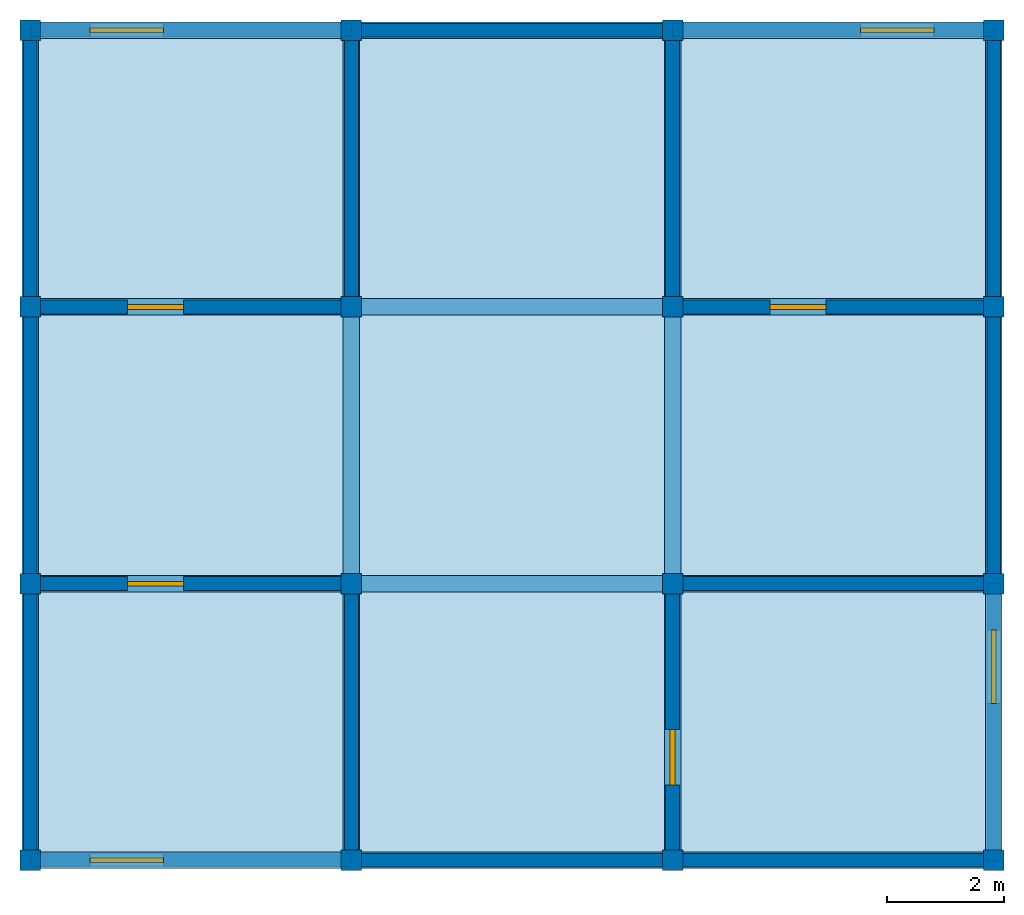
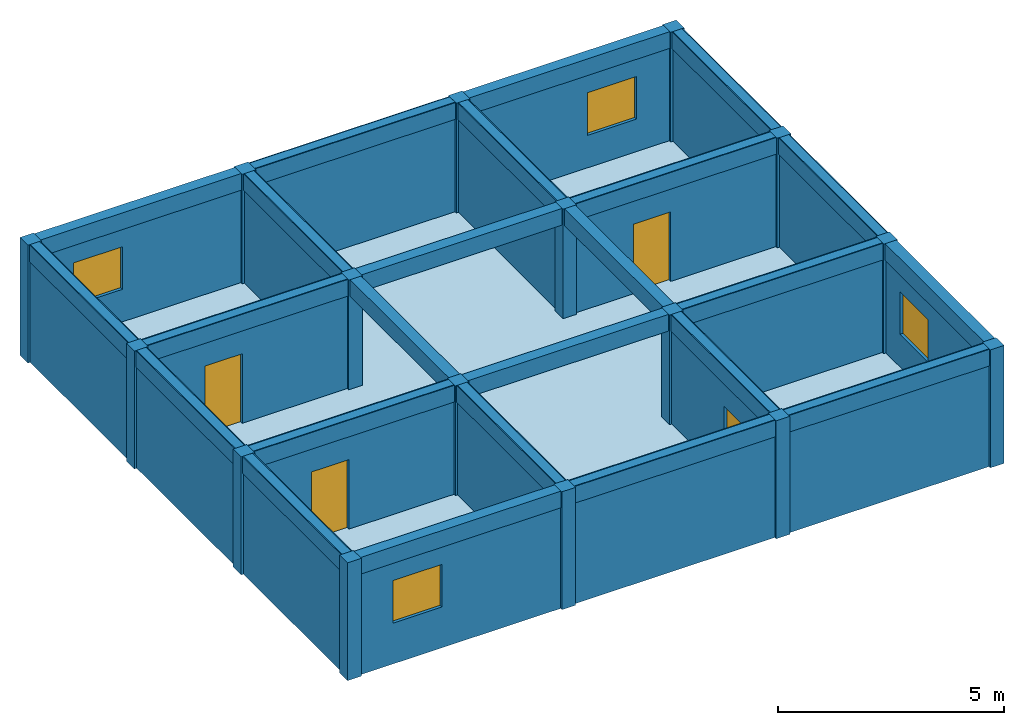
# One storey: 24 beams, 20 walls, 16 columns, 4 doors, 4 windows, 1 slab, 8 openings.
"""IFC4X3 building model written with IfcOpenShell, lengths in metres."""

from ifc_helpers import new_model, si_unit, frame, origin_with_axes, origin_2d, place, context, project, spatial, rectangle, extrude, material, element, fill, save


model = new_model("IFC4X3")

# Units and contexts
model_context = context("Model", 3, precision=1e-05, world=origin_with_axes())
ifc_project = project(units=[si_unit("LENGTHUNIT", "METRE"), si_unit("AREAUNIT", "SQUARE_METRE"), si_unit("VOLUMEUNIT", "CUBIC_METRE")], contexts=[model_context])

# Site, building, storey
site = spatial("IfcSite", under=ifc_project, Name="Antofagasta Parcel", CompositionType="ELEMENT")
building = spatial("IfcBuilding", under=site, Name="Nexo Block", CompositionType="ELEMENT")
storey = spatial("IfcBuildingStorey", under=building, Name="Level 9", CompositionType="ELEMENT", Elevation=25.45)

# Columns
ifc_material_1 = material(Name="Concrete")
column_1_placement = place(None, frame((-8.2, -7.065, 25.446), z_axis=(0.0, 0.0, 1.0), x_axis=(1.0, 0.0, 0.0)))
element("IfcColumn", 1, at=column_1_placement, inside=storey, material=ifc_material_1, Name="Column 9.1", ObjectType="Core Column", PredefinedType="COLUMN", context=model_context, shape_type="SweptSolid", body=[
    extrude(rectangle(XDim=0.35, YDim=0.35, at=origin_2d()), origin_with_axes(), (0.0, 0.0, 1.0), 3.181),
])
column_2_placement = place(None, frame((-8.2, -2.355, 25.446), z_axis=(0.0, 0.0, 1.0), x_axis=(1.0, 0.0, 0.0)))
element("IfcColumn", 2, at=column_2_placement, inside=storey, material=ifc_material_1, Name="Column 9.2", ObjectType="Structural Column", PredefinedType="USERDEFINED", context=model_context, shape_type="SweptSolid", body=[
    extrude(rectangle(XDim=0.35, YDim=0.35, at=origin_2d()), origin_with_axes(), (0.0, 0.0, 1.0), 3.181),
])
column_3_placement = place(None, frame((-8.2, 2.355, 25.446), z_axis=(0.0, 0.0, 1.0), x_axis=(1.0, 0.0, 0.0)))
element("IfcColumn", 3, at=column_3_placement, inside=storey, material=ifc_material_1, Name="Column 9.3", ObjectType="Core Column", PredefinedType="COLUMN", context=model_context, shape_type="SweptSolid", body=[
    extrude(rectangle(XDim=0.35, YDim=0.35, at=origin_2d()), origin_with_axes(), (0.0, 0.0, 1.0), 3.181),
])
column_4_placement = place(None, frame((-8.2, 7.065, 25.446), z_axis=(0.0, 0.0, 1.0), x_axis=(1.0, 0.0, 0.0)))
element("IfcColumn", 4, at=column_4_placement, inside=storey, material=ifc_material_1, Name="Column 9.4", ObjectType="Structural Column", PredefinedType="USERDEFINED", context=model_context, shape_type="SweptSolid", body=[
    extrude(rectangle(XDim=0.35, YDim=0.35, at=origin_2d()), origin_with_axes(), (0.0, 0.0, 1.0), 3.181),
])
column_5_placement = place(None, frame((-2.733, -7.065, 25.446), z_axis=(0.0, 0.0, 1.0), x_axis=(1.0, 0.0, 0.0)))
element("IfcColumn", 5, at=column_5_placement, inside=storey, material=ifc_material_1, Name="Column 9.5", ObjectType="Structural Column", PredefinedType="COLUMN", context=model_context, shape_type="SweptSolid", body=[
    extrude(rectangle(XDim=0.35, YDim=0.35, at=origin_2d()), origin_with_axes(), (0.0, 0.0, 1.0), 3.181),
])
column_6_placement = place(None, frame((-2.733, -2.355, 25.446), z_axis=(0.0, 0.0, 1.0), x_axis=(1.0, 0.0, 0.0)))
element("IfcColumn", 6, at=column_6_placement, inside=storey, material=ifc_material_1, Name="Column 9.6", ObjectType="Facade Column", PredefinedType="COLUMN", context=model_context, shape_type="SweptSolid", body=[
    extrude(rectangle(XDim=0.35, YDim=0.35, at=origin_2d()), origin_with_axes(), (0.0, 0.0, 1.0), 3.181),
])
column_7_placement = place(None, frame((-2.733, 2.355, 25.446), z_axis=(0.0, 0.0, 1.0), x_axis=(1.0, 0.0, 0.0)))
element("IfcColumn", 7, at=column_7_placement, inside=storey, material=ifc_material_1, Name="Column 9.7", ObjectType="Facade Column", PredefinedType="PILASTER", context=model_context, shape_type="SweptSolid", body=[
    extrude(rectangle(XDim=0.35, YDim=0.35, at=origin_2d()), origin_with_axes(), (0.0, 0.0, 1.0), 3.181),
])
column_8_placement = place(None, frame((-2.733, 7.065, 25.446), z_axis=(0.0, 0.0, 1.0), x_axis=(1.0, 0.0, 0.0)))
element("IfcColumn", 8, at=column_8_placement, inside=storey, material=ifc_material_1, Name="Column 9.8", ObjectType="Core Column", PredefinedType="PILASTER", context=model_context, shape_type="SweptSolid", body=[
    extrude(rectangle(XDim=0.35, YDim=0.35, at=origin_2d()), origin_with_axes(), (0.0, 0.0, 1.0), 3.181),
])
column_9_placement = place(None, frame((2.734, -7.065, 25.446), z_axis=(0.0, 0.0, 1.0), x_axis=(1.0, 0.0, 0.0)))
element("IfcColumn", 9, at=column_9_placement, inside=storey, material=ifc_material_1, Name="Column 9.9", ObjectType="Facade Column", PredefinedType="NOTDEFINED", context=model_context, shape_type="SweptSolid", body=[
    extrude(rectangle(XDim=0.35, YDim=0.35, at=origin_2d()), origin_with_axes(), (0.0, 0.0, 1.0), 3.181),
])
column_10_placement = place(None, frame((2.734, -2.355, 25.446), z_axis=(0.0, 0.0, 1.0), x_axis=(1.0, 0.0, 0.0)))
element("IfcColumn", 10, at=column_10_placement, inside=storey, material=ifc_material_1, Name="Column 9.10", ObjectType="Core Column", PredefinedType="NOTDEFINED", context=model_context, shape_type="SweptSolid", body=[
    extrude(rectangle(XDim=0.35, YDim=0.35, at=origin_2d()), origin_with_axes(), (0.0, 0.0, 1.0), 3.181),
])
column_11_placement = place(None, frame((2.734, 2.355, 25.446), z_axis=(0.0, 0.0, 1.0), x_axis=(1.0, 0.0, 0.0)))
element("IfcColumn", 11, at=column_11_placement, inside=storey, material=ifc_material_1, Name="Column 9.11", ObjectType="Corner Column", PredefinedType="COLUMN", context=model_context, shape_type="SweptSolid", body=[
    extrude(rectangle(XDim=0.35, YDim=0.35, at=origin_2d()), origin_with_axes(), (0.0, 0.0, 1.0), 3.181),
])
column_12_placement = place(None, frame((2.734, 7.065, 25.446), z_axis=(0.0, 0.0, 1.0), x_axis=(1.0, 0.0, 0.0)))
element("IfcColumn", 12, at=column_12_placement, inside=storey, material=ifc_material_1, Name="Column 9.12", ObjectType="Structural Column", PredefinedType="USERDEFINED", context=model_context, shape_type="SweptSolid", body=[
    extrude(rectangle(XDim=0.35, YDim=0.35, at=origin_2d()), origin_with_axes(), (0.0, 0.0, 1.0), 3.181),
])
column_13_placement = place(None, frame((8.201, -7.065, 25.446), z_axis=(0.0, 0.0, 1.0), x_axis=(1.0, 0.0, 0.0)))
element("IfcColumn", 13, at=column_13_placement, inside=storey, material=ifc_material_1, Name="Column 9.13", ObjectType="Core Column", PredefinedType="NOTDEFINED", context=model_context, shape_type="SweptSolid", body=[
    extrude(rectangle(XDim=0.35, YDim=0.35, at=origin_2d()), origin_with_axes(), (0.0, 0.0, 1.0), 3.181),
])
column_14_placement = place(None, frame((8.201, -2.355, 25.446), z_axis=(0.0, 0.0, 1.0), x_axis=(1.0, 0.0, 0.0)))
element("IfcColumn", 14, at=column_14_placement, inside=storey, material=ifc_material_1, Name="Column 9.14", ObjectType="Facade Column", PredefinedType="USERDEFINED", context=model_context, shape_type="SweptSolid", body=[
    extrude(rectangle(XDim=0.35, YDim=0.35, at=origin_2d()), origin_with_axes(), (0.0, 0.0, 1.0), 3.181),
])
column_15_placement = place(None, frame((8.201, 2.355, 25.446), z_axis=(0.0, 0.0, 1.0), x_axis=(1.0, 0.0, 0.0)))
element("IfcColumn", 15, at=column_15_placement, inside=storey, material=ifc_material_1, Name="Column 9.15", ObjectType="Core Column", PredefinedType="PILASTER", context=model_context, shape_type="SweptSolid", body=[
    extrude(rectangle(XDim=0.35, YDim=0.35, at=origin_2d()), origin_with_axes(), (0.0, 0.0, 1.0), 3.181),
])
column_16_placement = place(None, frame((8.201, 7.065, 25.446), z_axis=(0.0, 0.0, 1.0), x_axis=(1.0, 0.0, 0.0)))
element("IfcColumn", 16, at=column_16_placement, inside=storey, material=ifc_material_1, Name="Column 9.16", ObjectType="Corner Column", PredefinedType="USERDEFINED", context=model_context, shape_type="SweptSolid", body=[
    extrude(rectangle(XDim=0.35, YDim=0.35, at=origin_2d()), origin_with_axes(), (0.0, 0.0, 1.0), 3.181),
])

# Beams
ifc_material_2 = material(Name="Timber")
beam_1_placement = place(None, frame((-5.466, -7.065, 28.177), z_axis=(0.0, 0.0, 1.0), x_axis=(1.0, 0.0, 0.0)))
element("IfcBeam", 17, at=beam_1_placement, inside=storey, material=ifc_material_2, Name="Beam 9.1", ObjectType="Primary Beam", PredefinedType="HOLLOWCORE", context=model_context, shape_type="SweptSolid", body=[
    extrude(rectangle(XDim=5.467, YDim=0.28, at=origin_2d()), origin_with_axes(), (0.0, 0.0, 1.0), 0.45),
])
beam_2_placement = place(None, frame((0.0, -7.065, 28.177), z_axis=(0.0, 0.0, 1.0), x_axis=(1.0, 0.0, 0.0)))
element("IfcBeam", 18, at=beam_2_placement, inside=storey, material=ifc_material_2, Name="Beam 9.2", ObjectType="Secondary Beam", PredefinedType="JOIST", context=model_context, shape_type="SweptSolid", body=[
    extrude(rectangle(XDim=5.467, YDim=0.28, at=origin_2d()), origin_with_axes(), (0.0, 0.0, 1.0), 0.45),
])
beam_3_placement = place(None, frame((5.468, -7.065, 28.177), z_axis=(0.0, 0.0, 1.0), x_axis=(1.0, 0.0, 0.0)))
element("IfcBeam", 19, at=beam_3_placement, inside=storey, material=ifc_material_2, Name="Beam 9.3", ObjectType="Rafter Beam", PredefinedType="JOIST", context=model_context, shape_type="SweptSolid", body=[
    extrude(rectangle(XDim=5.467, YDim=0.28, at=origin_2d()), origin_with_axes(), (0.0, 0.0, 1.0), 0.45),
])
beam_4_placement = place(None, frame((-5.466, -2.355, 28.177), z_axis=(0.0, 0.0, 1.0), x_axis=(1.0, 0.0, 0.0)))
element("IfcBeam", 20, at=beam_4_placement, inside=storey, material=ifc_material_2, Name="Beam 9.4", ObjectType="Transfer Beam", PredefinedType="JOIST", context=model_context, shape_type="SweptSolid", body=[
    extrude(rectangle(XDim=5.467, YDim=0.28, at=origin_2d()), origin_with_axes(), (0.0, 0.0, 1.0), 0.45),
])
beam_5_placement = place(None, frame((0.0, -2.355, 28.177), z_axis=(0.0, 0.0, 1.0), x_axis=(1.0, 0.0, 0.0)))
element("IfcBeam", 21, at=beam_5_placement, inside=storey, material=ifc_material_2, Name="Beam 9.5", ObjectType="Primary Beam", PredefinedType="SPANDREL", context=model_context, shape_type="SweptSolid", body=[
    extrude(rectangle(XDim=5.467, YDim=0.28, at=origin_2d()), origin_with_axes(), (0.0, 0.0, 1.0), 0.45),
])
beam_6_placement = place(None, frame((5.468, -2.355, 28.177), z_axis=(0.0, 0.0, 1.0), x_axis=(1.0, 0.0, 0.0)))
element("IfcBeam", 22, at=beam_6_placement, inside=storey, material=ifc_material_2, Name="Beam 9.6", ObjectType="Rafter Beam", PredefinedType="LINTEL", context=model_context, shape_type="SweptSolid", body=[
    extrude(rectangle(XDim=5.467, YDim=0.28, at=origin_2d()), origin_with_axes(), (0.0, 0.0, 1.0), 0.45),
])
beam_7_placement = place(None, frame((-5.466, 2.355, 28.177), z_axis=(0.0, 0.0, 1.0), x_axis=(1.0, 0.0, 0.0)))
element("IfcBeam", 23, at=beam_7_placement, inside=storey, material=ifc_material_2, Name="Beam 9.7", ObjectType="Secondary Beam", PredefinedType="NOTDEFINED", context=model_context, shape_type="SweptSolid", body=[
    extrude(rectangle(XDim=5.467, YDim=0.28, at=origin_2d()), origin_with_axes(), (0.0, 0.0, 1.0), 0.45),
])
beam_8_placement = place(None, frame((0.0, 2.355, 28.177), z_axis=(0.0, 0.0, 1.0), x_axis=(1.0, 0.0, 0.0)))
element("IfcBeam", 24, at=beam_8_placement, inside=storey, material=ifc_material_2, Name="Beam 9.8", ObjectType="Primary Beam", PredefinedType="BEAM", context=model_context, shape_type="SweptSolid", body=[
    extrude(rectangle(XDim=5.467, YDim=0.28, at=origin_2d()), origin_with_axes(), (0.0, 0.0, 1.0), 0.45),
])
beam_9_placement = place(None, frame((5.468, 2.355, 28.177), z_axis=(0.0, 0.0, 1.0), x_axis=(1.0, 0.0, 0.0)))
element("IfcBeam", 25, at=beam_9_placement, inside=storey, material=ifc_material_2, Name="Beam 9.9", ObjectType="Primary Beam", PredefinedType="HOLLOWCORE", context=model_context, shape_type="SweptSolid", body=[
    extrude(rectangle(XDim=5.467, YDim=0.28, at=origin_2d()), origin_with_axes(), (0.0, 0.0, 1.0), 0.45),
])
beam_10_placement = place(None, frame((-5.466, 7.065, 28.177), z_axis=(0.0, 0.0, 1.0), x_axis=(1.0, 0.0, 0.0)))
element("IfcBeam", 26, at=beam_10_placement, inside=storey, material=ifc_material_2, Name="Beam 9.10", ObjectType="Ridge Beam", PredefinedType="USERDEFINED", context=model_context, shape_type="SweptSolid", body=[
    extrude(rectangle(XDim=5.467, YDim=0.28, at=origin_2d()), origin_with_axes(), (0.0, 0.0, 1.0), 0.45),
])
beam_11_placement = place(None, frame((0.0, 7.065, 28.177), z_axis=(0.0, 0.0, 1.0), x_axis=(1.0, 0.0, 0.0)))
element("IfcBeam", 27, at=beam_11_placement, inside=storey, material=ifc_material_2, Name="Beam 9.11", ObjectType="Transfer Beam", PredefinedType="NOTDEFINED", context=model_context, shape_type="SweptSolid", body=[
    extrude(rectangle(XDim=5.467, YDim=0.28, at=origin_2d()), origin_with_axes(), (0.0, 0.0, 1.0), 0.45),
])
beam_12_placement = place(None, frame((5.468, 7.065, 28.177), z_axis=(0.0, 0.0, 1.0), x_axis=(1.0, 0.0, 0.0)))
element("IfcBeam", 28, at=beam_12_placement, inside=storey, material=ifc_material_2, Name="Beam 9.12", ObjectType="Rafter Beam", PredefinedType="HOLLOWCORE", context=model_context, shape_type="SweptSolid", body=[
    extrude(rectangle(XDim=5.467, YDim=0.28, at=origin_2d()), origin_with_axes(), (0.0, 0.0, 1.0), 0.45),
])
beam_13_placement = place(None, frame((-8.2, -4.71, 28.177), z_axis=(0.0, 0.0, 1.0), x_axis=(0.0, 1.0, 0.0)))
element("IfcBeam", 29, at=beam_13_placement, inside=storey, material=ifc_material_2, Name="Beam 9.13", ObjectType="Secondary Beam", PredefinedType="SPANDREL", context=model_context, shape_type="SweptSolid", body=[
    extrude(rectangle(XDim=4.71, YDim=0.28, at=origin_2d()), origin_with_axes(), (0.0, 0.0, 1.0), 0.45),
])
beam_14_placement = place(None, frame((-8.2, 0.0, 28.177), z_axis=(0.0, 0.0, 1.0), x_axis=(0.0, 1.0, 0.0)))
element("IfcBeam", 30, at=beam_14_placement, inside=storey, material=ifc_material_2, Name="Beam 9.14", ObjectType="Rafter Beam", PredefinedType="HOLLOWCORE", context=model_context, shape_type="SweptSolid", body=[
    extrude(rectangle(XDim=4.71, YDim=0.28, at=origin_2d()), origin_with_axes(), (0.0, 0.0, 1.0), 0.45),
])
beam_15_placement = place(None, frame((-8.2, 4.71, 28.177), z_axis=(0.0, 0.0, 1.0), x_axis=(0.0, 1.0, 0.0)))
element("IfcBeam", 31, at=beam_15_placement, inside=storey, material=ifc_material_2, Name="Beam 9.15", ObjectType="Primary Beam", PredefinedType="JOIST", context=model_context, shape_type="SweptSolid", body=[
    extrude(rectangle(XDim=4.71, YDim=0.28, at=origin_2d()), origin_with_axes(), (0.0, 0.0, 1.0), 0.45),
])
beam_16_placement = place(None, frame((-2.733, -4.71, 28.177), z_axis=(0.0, 0.0, 1.0), x_axis=(0.0, 1.0, 0.0)))
element("IfcBeam", 32, at=beam_16_placement, inside=storey, material=ifc_material_2, Name="Beam 9.16", ObjectType="Ridge Beam", PredefinedType="JOIST", context=model_context, shape_type="SweptSolid", body=[
    extrude(rectangle(XDim=4.71, YDim=0.28, at=origin_2d()), origin_with_axes(), (0.0, 0.0, 1.0), 0.45),
])
beam_17_placement = place(None, frame((-2.733, 0.0, 28.177), z_axis=(0.0, 0.0, 1.0), x_axis=(0.0, 1.0, 0.0)))
element("IfcBeam", 33, at=beam_17_placement, inside=storey, material=ifc_material_2, Name="Beam 9.17", ObjectType="Secondary Beam", PredefinedType="USERDEFINED", context=model_context, shape_type="SweptSolid", body=[
    extrude(rectangle(XDim=4.71, YDim=0.28, at=origin_2d()), origin_with_axes(), (0.0, 0.0, 1.0), 0.45),
])
beam_18_placement = place(None, frame((-2.733, 4.71, 28.177), z_axis=(0.0, 0.0, 1.0), x_axis=(0.0, 1.0, 0.0)))
element("IfcBeam", 34, at=beam_18_placement, inside=storey, material=ifc_material_2, Name="Beam 9.18", ObjectType="Primary Beam", PredefinedType="USERDEFINED", context=model_context, shape_type="SweptSolid", body=[
    extrude(rectangle(XDim=4.71, YDim=0.28, at=origin_2d()), origin_with_axes(), (0.0, 0.0, 1.0), 0.45),
])
beam_19_placement = place(None, frame((2.734, -4.71, 28.177), z_axis=(0.0, 0.0, 1.0), x_axis=(0.0, 1.0, 0.0)))
element("IfcBeam", 35, at=beam_19_placement, inside=storey, material=ifc_material_2, Name="Beam 9.19", ObjectType="Ridge Beam", PredefinedType="USERDEFINED", context=model_context, shape_type="SweptSolid", body=[
    extrude(rectangle(XDim=4.71, YDim=0.28, at=origin_2d()), origin_with_axes(), (0.0, 0.0, 1.0), 0.45),
])
beam_20_placement = place(None, frame((2.734, 0.0, 28.177), z_axis=(0.0, 0.0, 1.0), x_axis=(0.0, 1.0, 0.0)))
element("IfcBeam", 36, at=beam_20_placement, inside=storey, material=ifc_material_2, Name="Beam 9.20", ObjectType="Secondary Beam", PredefinedType="NOTDEFINED", context=model_context, shape_type="SweptSolid", body=[
    extrude(rectangle(XDim=4.71, YDim=0.28, at=origin_2d()), origin_with_axes(), (0.0, 0.0, 1.0), 0.45),
])
beam_21_placement = place(None, frame((2.734, 4.71, 28.177), z_axis=(0.0, 0.0, 1.0), x_axis=(0.0, 1.0, 0.0)))
element("IfcBeam", 37, at=beam_21_placement, inside=storey, material=ifc_material_2, Name="Beam 9.21", ObjectType="Transfer Beam", PredefinedType="HOLLOWCORE", context=model_context, shape_type="SweptSolid", body=[
    extrude(rectangle(XDim=4.71, YDim=0.28, at=origin_2d()), origin_with_axes(), (0.0, 0.0, 1.0), 0.45),
])
beam_22_placement = place(None, frame((8.201, -4.71, 28.177), z_axis=(0.0, 0.0, 1.0), x_axis=(0.0, 1.0, 0.0)))
element("IfcBeam", 38, at=beam_22_placement, inside=storey, material=ifc_material_2, Name="Beam 9.22", ObjectType="Transfer Beam", PredefinedType="BEAM", context=model_context, shape_type="SweptSolid", body=[
    extrude(rectangle(XDim=4.71, YDim=0.28, at=origin_2d()), origin_with_axes(), (0.0, 0.0, 1.0), 0.45),
])
beam_23_placement = place(None, frame((8.201, 0.0, 28.177), z_axis=(0.0, 0.0, 1.0), x_axis=(0.0, 1.0, 0.0)))
element("IfcBeam", 39, at=beam_23_placement, inside=storey, material=ifc_material_2, Name="Beam 9.23", ObjectType="Primary Beam", PredefinedType="JOIST", context=model_context, shape_type="SweptSolid", body=[
    extrude(rectangle(XDim=4.71, YDim=0.28, at=origin_2d()), origin_with_axes(), (0.0, 0.0, 1.0), 0.45),
])
beam_24_placement = place(None, frame((8.201, 4.71, 28.177), z_axis=(0.0, 0.0, 1.0), x_axis=(0.0, 1.0, 0.0)))
element("IfcBeam", 40, at=beam_24_placement, inside=storey, material=ifc_material_2, Name="Beam 9.24", ObjectType="Primary Beam", PredefinedType="HOLLOWCORE", context=model_context, shape_type="SweptSolid", body=[
    extrude(rectangle(XDim=4.71, YDim=0.28, at=origin_2d()), origin_with_axes(), (0.0, 0.0, 1.0), 0.45),
])

# Slab
slab_placement = place(None, frame((0.0, 0.0, 25.45), z_axis=(0.0, 0.0, 1.0), x_axis=(1.0, 0.0, 0.0)))
element("IfcSlab", 41, at=slab_placement, inside=storey, material=ifc_material_2, Name="Slab 9", ObjectType="Floor Slab", PredefinedType="FLOOR", context=model_context, shape_type="SweptSolid", body=[
    extrude(rectangle(XDim=16.4, YDim=14.13, at=origin_2d()), origin_with_axes(), (0.0, 0.0, 1.0), 0.22),
])

# Wall, opening, door
wall_1_placement = place(None, frame((-5.466, -2.355, 25.446), z_axis=(0.0, 0.0, 1.0), x_axis=(1.0, 0.0, 0.0)))
wall_1 = element("IfcWall", 42, at=wall_1_placement, inside=storey, material=ifc_material_1, Name="Wall 9.1", ObjectType="Corridor Partition", PredefinedType="MOVABLE", context=model_context, shape_type="SweptSolid", body=[
    extrude(rectangle(XDim=5.467, YDim=0.235988, at=origin_2d()), origin_with_axes(), (0.0, 0.0, 1.0), 3.181),
])
opening_1_placement = place(None, frame((-6.066, -2.355, 25.446), z_axis=(0.0, 0.0, 1.0), x_axis=(1.0, 0.0, 0.0)))
opening_1 = element("IfcOpeningElement", 43, at=opening_1_placement, cuts=wall_1, Name="Door opening 9.1", ObjectType="Door Opening", PredefinedType="OPENING", context=model_context, shape_type="SweptSolid", body=[
    extrude(rectangle(XDim=0.95, YDim=0.315988, at=origin_2d()), origin_with_axes(), (0.0, 0.0, 1.0), 2.1),
])
door_1_placement = place(None, frame((-6.066, -2.355, 25.446), z_axis=(0.0, 0.0, 1.0), x_axis=(1.0, 0.0, 0.0)))
door_1 = element("IfcDoor", 44, at=door_1_placement, inside=storey, Name="Door 9.1", ObjectType="Entry Door", OverallHeight=2.1, OverallWidth=0.95, context=model_context, shape_type="SweptSolid", body=[
    extrude(rectangle(XDim=0.95, YDim=0.08, at=origin_2d()), origin_with_axes(), (0.0, 0.0, 1.0), 2.1),
])
fill(opening_1, door_1)

# Wall
ifc_material_3 = material(Name="CLT")
wall_2_placement = place(None, frame((-2.7325, -4.71, 25.446), z_axis=(0.0, 0.0, 1.0), x_axis=(0.0, 1.0, 0.0)))
element("IfcWall", 45, at=wall_2_placement, inside=storey, material=ifc_material_3, Name="Wall 9.2", ObjectType="Corridor Partition", PredefinedType="PARAPET", context=model_context, shape_type="SweptSolid", body=[
    extrude(rectangle(XDim=4.71, YDim=0.235988, at=origin_2d()), origin_with_axes(), (0.0, 0.0, 1.0), 3.181),
])

# Wall, opening, window
ifc_material_4 = material(Name="Brick")
wall_3_placement = place(None, frame((-5.466, -7.065, 25.446), z_axis=(0.0, 0.0, 1.0), x_axis=(1.0, 0.0, 0.0)))
wall_3 = element("IfcWall", 46, at=wall_3_placement, inside=storey, material=ifc_material_4, Name="Wall 9.3", ObjectType="Exterior Wall", PredefinedType="NOTDEFINED", context=model_context, shape_type="SweptSolid", body=[
    extrude(rectangle(XDim=5.467, YDim=0.235988, at=origin_2d()), origin_with_axes(), (0.0, 0.0, 1.0), 3.181),
])
opening_2_placement = place(None, frame((-6.559, -7.065, 26.546), z_axis=(0.0, 0.0, 1.0), x_axis=(1.0, 0.0, 0.0)))
opening_2 = element("IfcOpeningElement", 47, at=opening_2_placement, cuts=wall_3, Name="Window opening 9.2", ObjectType="Window Opening", PredefinedType="OPENING", context=model_context, shape_type="SweptSolid", body=[
    extrude(rectangle(XDim=1.25, YDim=0.315988, at=origin_2d()), origin_with_axes(), (0.0, 0.0, 1.0), 1.15),
])
window_1_placement = place(None, frame((-6.559, -7.065, 26.546), z_axis=(0.0, 0.0, 1.0), x_axis=(1.0, 0.0, 0.0)))
window_1 = element("IfcWindow", 48, at=window_1_placement, inside=storey, Name="Window 9.2", ObjectType="Louvre Window", OverallHeight=1.15, OverallWidth=1.25, context=model_context, shape_type="SweptSolid", body=[
    extrude(rectangle(XDim=1.25, YDim=0.08, at=origin_2d()), origin_with_axes(), (0.0, 0.0, 1.0), 1.15),
])
fill(opening_2, window_1)

# Wall
wall_4_placement = place(None, frame((-8.1995, -4.71, 25.446), z_axis=(0.0, 0.0, 1.0), x_axis=(0.0, 1.0, 0.0)))
element("IfcWall", 49, at=wall_4_placement, inside=storey, material=ifc_material_1, Name="Wall 9.4", ObjectType="Exterior Wall", PredefinedType="SOLIDWALL", context=model_context, shape_type="SweptSolid", body=[
    extrude(rectangle(XDim=4.71, YDim=0.235988, at=origin_2d()), origin_with_axes(), (0.0, 0.0, 1.0), 3.181),
])

# Wall, opening, door
wall_5_placement = place(None, frame((2.7335, -4.71, 25.446), z_axis=(0.0, 0.0, 1.0), x_axis=(0.0, 1.0, 0.0)))
wall_5 = element("IfcWall", 50, at=wall_5_placement, inside=storey, material=ifc_material_1, Name="Wall 9.5", ObjectType="Corridor Partition", PredefinedType="PLUMBINGWALL", context=model_context, shape_type="SweptSolid", body=[
    extrude(rectangle(XDim=4.71, YDim=0.235988, at=origin_2d()), origin_with_axes(), (0.0, 0.0, 1.0), 3.181),
])
opening_3_placement = place(None, frame((2.733, -5.31, 25.446), z_axis=(0.0, 0.0, 1.0), x_axis=(0.0, 1.0, 0.0)))
opening_3 = element("IfcOpeningElement", 51, at=opening_3_placement, cuts=wall_5, Name="Door opening 9.3", ObjectType="Door Opening", PredefinedType="OPENING", context=model_context, shape_type="SweptSolid", body=[
    extrude(rectangle(XDim=0.95, YDim=0.315988, at=origin_2d()), origin_with_axes(), (0.0, 0.0, 1.0), 2.1),
])
door_2_placement = place(None, frame((2.733, -5.31, 25.446), z_axis=(0.0, 0.0, 1.0), x_axis=(0.0, 1.0, 0.0)))
door_2 = element("IfcDoor", 52, at=door_2_placement, inside=storey, Name="Door 9.3", ObjectType="Fire Door", OverallHeight=2.1, OverallWidth=0.95, context=model_context, shape_type="SweptSolid", body=[
    extrude(rectangle(XDim=0.95, YDim=0.08, at=origin_2d()), origin_with_axes(), (0.0, 0.0, 1.0), 2.1),
])
fill(opening_3, door_2)

# Walls
wall_6_placement = place(None, frame((0.0, -7.065, 25.446), z_axis=(0.0, 0.0, 1.0), x_axis=(1.0, 0.0, 0.0)))
element("IfcWall", 53, at=wall_6_placement, inside=storey, material=ifc_material_4, Name="Wall 9.6", ObjectType="Exterior Wall", PredefinedType="PARAPET", context=model_context, shape_type="SweptSolid", body=[
    extrude(rectangle(XDim=5.467, YDim=0.235988, at=origin_2d()), origin_with_axes(), (0.0, 0.0, 1.0), 3.181),
])
wall_7_placement = place(None, frame((5.467, -2.355, 25.446), z_axis=(0.0, 0.0, 1.0), x_axis=(1.0, 0.0, 0.0)))
element("IfcWall", 54, at=wall_7_placement, inside=storey, material=ifc_material_3, Name="Wall 9.7", ObjectType="Corridor Partition", PredefinedType="NOTDEFINED", context=model_context, shape_type="SweptSolid", body=[
    extrude(rectangle(XDim=5.467, YDim=0.235988, at=origin_2d()), origin_with_axes(), (0.0, 0.0, 1.0), 3.181),
])

# Wall, opening, window
wall_8_placement = place(None, frame((8.2005, -4.71, 25.446), z_axis=(0.0, 0.0, 1.0), x_axis=(0.0, 1.0, 0.0)))
wall_8 = element("IfcWall", 55, at=wall_8_placement, inside=storey, material=ifc_material_3, Name="Wall 9.8", ObjectType="Exterior Wall", PredefinedType="SHEAR", context=model_context, shape_type="SweptSolid", body=[
    extrude(rectangle(XDim=4.71, YDim=0.235988, at=origin_2d()), origin_with_axes(), (0.0, 0.0, 1.0), 3.181),
])
opening_4_placement = place(None, frame((8.2, -3.768, 26.546), z_axis=(0.0, 0.0, 1.0), x_axis=(0.0, 1.0, 0.0)))
opening_4 = element("IfcOpeningElement", 56, at=opening_4_placement, cuts=wall_8, Name="Window opening 9.4", ObjectType="Window Opening", PredefinedType="OPENING", context=model_context, shape_type="SweptSolid", body=[
    extrude(rectangle(XDim=1.25, YDim=0.315988, at=origin_2d()), origin_with_axes(), (0.0, 0.0, 1.0), 1.15),
])
window_2_placement = place(None, frame((8.2, -3.768, 26.546), z_axis=(0.0, 0.0, 1.0), x_axis=(0.0, 1.0, 0.0)))
window_2 = element("IfcWindow", 57, at=window_2_placement, inside=storey, Name="Window 9.4", ObjectType="Curtain Window", OverallHeight=1.15, OverallWidth=1.25, context=model_context, shape_type="SweptSolid", body=[
    extrude(rectangle(XDim=1.25, YDim=0.08, at=origin_2d()), origin_with_axes(), (0.0, 0.0, 1.0), 1.15),
])
fill(opening_4, window_2)

# Wall
ifc_material_5 = material(Name="Gypsum")
wall_9_placement = place(None, frame((5.467, -7.065, 25.446), z_axis=(0.0, 0.0, 1.0), x_axis=(1.0, 0.0, 0.0)))
element("IfcWall", 58, at=wall_9_placement, inside=storey, material=ifc_material_5, Name="Wall 9.9", ObjectType="Exterior Wall", PredefinedType="POLYGONAL", context=model_context, shape_type="SweptSolid", body=[
    extrude(rectangle(XDim=5.467, YDim=0.235988, at=origin_2d()), origin_with_axes(), (0.0, 0.0, 1.0), 3.181),
])

# Wall, opening, door
wall_10_placement = place(None, frame((-5.466, 2.355, 25.446), z_axis=(0.0, 0.0, 1.0), x_axis=(1.0, 0.0, 0.0)))
wall_10 = element("IfcWall", 59, at=wall_10_placement, inside=storey, material=ifc_material_3, Name="Wall 9.10", ObjectType="Corridor Partition", PredefinedType="PARAPET", context=model_context, shape_type="SweptSolid", body=[
    extrude(rectangle(XDim=5.467, YDim=0.235988, at=origin_2d()), origin_with_axes(), (0.0, 0.0, 1.0), 3.181),
])
opening_5_placement = place(None, frame((-6.066, 2.355, 25.446), z_axis=(0.0, 0.0, 1.0), x_axis=(1.0, 0.0, 0.0)))
opening_5 = element("IfcOpeningElement", 60, at=opening_5_placement, cuts=wall_10, Name="Door opening 9.5", ObjectType="Door Opening", PredefinedType="OPENING", context=model_context, shape_type="SweptSolid", body=[
    extrude(rectangle(XDim=0.95, YDim=0.315988, at=origin_2d()), origin_with_axes(), (0.0, 0.0, 1.0), 2.1),
])
door_3_placement = place(None, frame((-6.066, 2.355, 25.446), z_axis=(0.0, 0.0, 1.0), x_axis=(1.0, 0.0, 0.0)))
door_3 = element("IfcDoor", 61, at=door_3_placement, inside=storey, Name="Door 9.5", ObjectType="Entry Door", OverallHeight=2.1, OverallWidth=0.95, context=model_context, shape_type="SweptSolid", body=[
    extrude(rectangle(XDim=0.95, YDim=0.08, at=origin_2d()), origin_with_axes(), (0.0, 0.0, 1.0), 2.1),
])
fill(opening_5, door_3)

# Wall
wall_11_placement = place(None, frame((-8.1995, 0.0, 25.446), z_axis=(0.0, 0.0, 1.0), x_axis=(0.0, 1.0, 0.0)))
element("IfcWall", 62, at=wall_11_placement, inside=storey, material=ifc_material_4, Name="Wall 9.11", ObjectType="Exterior Wall", PredefinedType="USERDEFINED", context=model_context, shape_type="SweptSolid", body=[
    extrude(rectangle(XDim=4.71, YDim=0.235988, at=origin_2d()), origin_with_axes(), (0.0, 0.0, 1.0), 3.181),
])

# Wall, opening, door
wall_12_placement = place(None, frame((5.467, 2.355, 25.446), z_axis=(0.0, 0.0, 1.0), x_axis=(1.0, 0.0, 0.0)))
wall_12 = element("IfcWall", 63, at=wall_12_placement, inside=storey, material=ifc_material_1, Name="Wall 9.12", ObjectType="Corridor Partition", PredefinedType="PLUMBINGWALL", context=model_context, shape_type="SweptSolid", body=[
    extrude(rectangle(XDim=5.467, YDim=0.235988, at=origin_2d()), origin_with_axes(), (0.0, 0.0, 1.0), 3.181),
])
opening_6_placement = place(None, frame((4.867, 2.355, 25.446), z_axis=(0.0, 0.0, 1.0), x_axis=(1.0, 0.0, 0.0)))
opening_6 = element("IfcOpeningElement", 64, at=opening_6_placement, cuts=wall_12, Name="Door opening 9.7", ObjectType="Door Opening", PredefinedType="OPENING", context=model_context, shape_type="SweptSolid", body=[
    extrude(rectangle(XDim=0.95, YDim=0.315988, at=origin_2d()), origin_with_axes(), (0.0, 0.0, 1.0), 2.1),
])
door_4_placement = place(None, frame((4.867, 2.355, 25.446), z_axis=(0.0, 0.0, 1.0), x_axis=(1.0, 0.0, 0.0)))
door_4 = element("IfcDoor", 65, at=door_4_placement, inside=storey, Name="Door 9.7", ObjectType="Fire Door", OverallHeight=2.1, OverallWidth=0.95, context=model_context, shape_type="SweptSolid", body=[
    extrude(rectangle(XDim=0.95, YDim=0.08, at=origin_2d()), origin_with_axes(), (0.0, 0.0, 1.0), 2.1),
])
fill(opening_6, door_4)

# Wall
wall_13_placement = place(None, frame((8.2005, 0.0, 25.446), z_axis=(0.0, 0.0, 1.0), x_axis=(0.0, 1.0, 0.0)))
element("IfcWall", 66, at=wall_13_placement, inside=storey, material=ifc_material_3, Name="Wall 9.13", ObjectType="Exterior Wall", PredefinedType="ELEMENTEDWALL", context=model_context, shape_type="SweptSolid", body=[
    extrude(rectangle(XDim=4.71, YDim=0.235988, at=origin_2d()), origin_with_axes(), (0.0, 0.0, 1.0), 3.181),
])

# Wall, opening, window
wall_14_placement = place(None, frame((-5.466, 7.065, 25.446), z_axis=(0.0, 0.0, 1.0), x_axis=(1.0, 0.0, 0.0)))
wall_14 = element("IfcWall", 67, at=wall_14_placement, inside=storey, material=ifc_material_3, Name="Wall 9.14", ObjectType="Exterior Wall", PredefinedType="USERDEFINED", context=model_context, shape_type="SweptSolid", body=[
    extrude(rectangle(XDim=5.467, YDim=0.235988, at=origin_2d()), origin_with_axes(), (0.0, 0.0, 1.0), 3.181),
])
opening_7_placement = place(None, frame((-6.559, 7.065, 26.546), z_axis=(0.0, 0.0, 1.0), x_axis=(1.0, 0.0, 0.0)))
opening_7 = element("IfcOpeningElement", 68, at=opening_7_placement, cuts=wall_14, Name="Window opening 9.6", ObjectType="Window Opening", PredefinedType="OPENING", context=model_context, shape_type="SweptSolid", body=[
    extrude(rectangle(XDim=1.25, YDim=0.315988, at=origin_2d()), origin_with_axes(), (0.0, 0.0, 1.0), 1.15),
])
window_3_placement = place(None, frame((-6.559, 7.065, 26.546), z_axis=(0.0, 0.0, 1.0), x_axis=(1.0, 0.0, 0.0)))
window_3 = element("IfcWindow", 69, at=window_3_placement, inside=storey, Name="Window 9.6", ObjectType="Fixed Window", OverallHeight=1.15, OverallWidth=1.25, context=model_context, shape_type="SweptSolid", body=[
    extrude(rectangle(XDim=1.25, YDim=0.08, at=origin_2d()), origin_with_axes(), (0.0, 0.0, 1.0), 1.15),
])
fill(opening_7, window_3)

# Walls
wall_15_placement = place(None, frame((-2.7325, 4.71, 25.446), z_axis=(0.0, 0.0, 1.0), x_axis=(0.0, 1.0, 0.0)))
element("IfcWall", 70, at=wall_15_placement, inside=storey, material=ifc_material_3, Name="Wall 9.15", ObjectType="Corridor Partition", PredefinedType="POLYGONAL", context=model_context, shape_type="SweptSolid", body=[
    extrude(rectangle(XDim=4.71, YDim=0.235988, at=origin_2d()), origin_with_axes(), (0.0, 0.0, 1.0), 3.181),
])
wall_16_placement = place(None, frame((-8.1995, 4.71, 25.446), z_axis=(0.0, 0.0, 1.0), x_axis=(0.0, 1.0, 0.0)))
element("IfcWall", 71, at=wall_16_placement, inside=storey, material=ifc_material_5, Name="Wall 9.16", ObjectType="Exterior Wall", PredefinedType="MOVABLE", context=model_context, shape_type="SweptSolid", body=[
    extrude(rectangle(XDim=4.71, YDim=0.235988, at=origin_2d()), origin_with_axes(), (0.0, 0.0, 1.0), 3.181),
])
wall_17_placement = place(None, frame((0.0, 7.065, 25.446), z_axis=(0.0, 0.0, 1.0), x_axis=(1.0, 0.0, 0.0)))
element("IfcWall", 72, at=wall_17_placement, inside=storey, material=ifc_material_5, Name="Wall 9.17", ObjectType="Exterior Wall", PredefinedType="POLYGONAL", context=model_context, shape_type="SweptSolid", body=[
    extrude(rectangle(XDim=5.467, YDim=0.235988, at=origin_2d()), origin_with_axes(), (0.0, 0.0, 1.0), 3.181),
])
wall_18_placement = place(None, frame((2.7335, 4.71, 25.446), z_axis=(0.0, 0.0, 1.0), x_axis=(0.0, 1.0, 0.0)))
element("IfcWall", 73, at=wall_18_placement, inside=storey, material=ifc_material_4, Name="Wall 9.18", ObjectType="Corridor Partition", PredefinedType="SHEAR", context=model_context, shape_type="SweptSolid", body=[
    extrude(rectangle(XDim=4.71, YDim=0.235988, at=origin_2d()), origin_with_axes(), (0.0, 0.0, 1.0), 3.181),
])

# Wall, opening, window
wall_19_placement = place(None, frame((5.467, 7.065, 25.446), z_axis=(0.0, 0.0, 1.0), x_axis=(1.0, 0.0, 0.0)))
wall_19 = element("IfcWall", 74, at=wall_19_placement, inside=storey, material=ifc_material_4, Name="Wall 9.19", ObjectType="Exterior Wall", PredefinedType="PLUMBINGWALL", context=model_context, shape_type="SweptSolid", body=[
    extrude(rectangle(XDim=5.467, YDim=0.235988, at=origin_2d()), origin_with_axes(), (0.0, 0.0, 1.0), 3.181),
])
opening_8_placement = place(None, frame((6.56, 7.065, 26.546), z_axis=(0.0, 0.0, 1.0), x_axis=(1.0, 0.0, 0.0)))
opening_8 = element("IfcOpeningElement", 75, at=opening_8_placement, cuts=wall_19, Name="Window opening 9.8", ObjectType="Window Opening", PredefinedType="OPENING", context=model_context, shape_type="SweptSolid", body=[
    extrude(rectangle(XDim=1.25, YDim=0.315988, at=origin_2d()), origin_with_axes(), (0.0, 0.0, 1.0), 1.15),
])
window_4_placement = place(None, frame((6.56, 7.065, 26.546), z_axis=(0.0, 0.0, 1.0), x_axis=(1.0, 0.0, 0.0)))
window_4 = element("IfcWindow", 76, at=window_4_placement, inside=storey, Name="Window 9.8", ObjectType="Operable Window", OverallHeight=1.15, OverallWidth=1.25, context=model_context, shape_type="SweptSolid", body=[
    extrude(rectangle(XDim=1.25, YDim=0.08, at=origin_2d()), origin_with_axes(), (0.0, 0.0, 1.0), 1.15),
])
fill(opening_8, window_4)

# Wall
wall_20_placement = place(None, frame((8.2005, 4.71, 25.446), z_axis=(0.0, 0.0, 1.0), x_axis=(0.0, 1.0, 0.0)))
element("IfcWall", 77, at=wall_20_placement, inside=storey, material=ifc_material_4, Name="Wall 9.20", ObjectType="Exterior Wall", PredefinedType="SOLIDWALL", context=model_context, shape_type="SweptSolid", body=[
    extrude(rectangle(XDim=4.71, YDim=0.235988, at=origin_2d()), origin_with_axes(), (0.0, 0.0, 1.0), 3.181),
])

save(model, "model.ifc")
